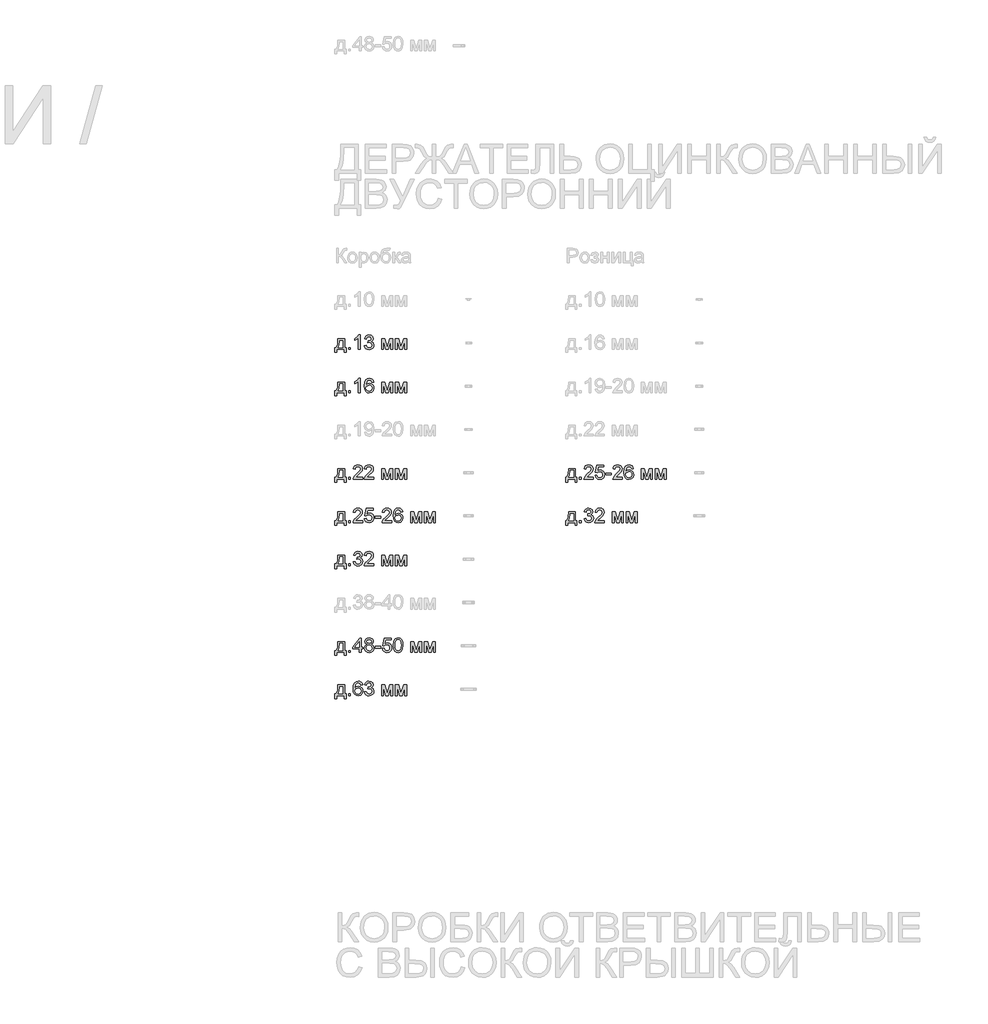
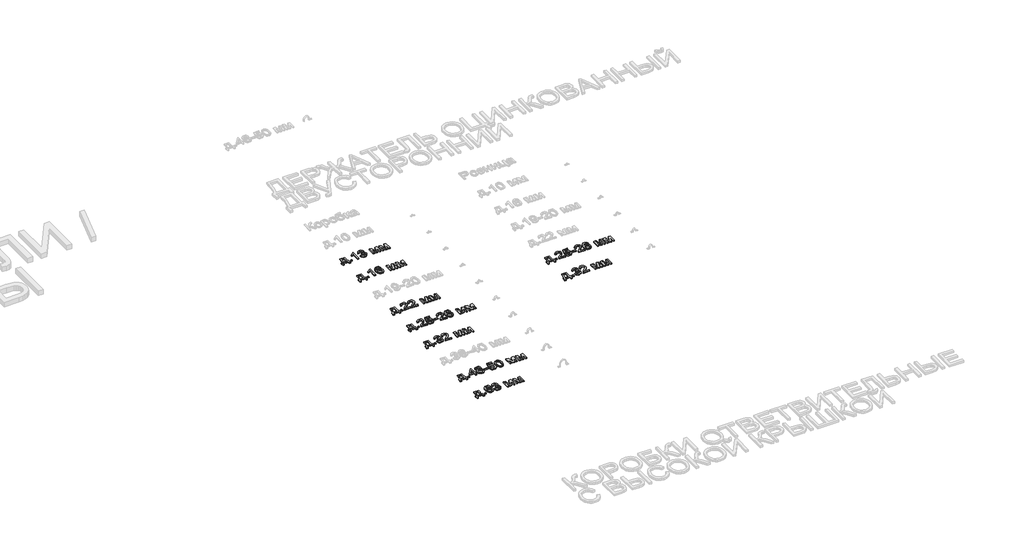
# One storey, part 33 of 98: 9 proxies.
"""IFC4 building model written with IfcOpenShell, lengths in millimetres."""

from ifc_helpers import new_model, si_unit, origin, origin_with_axes, place, context, project, spatial, polyline, outline, extrude, element, save

model = new_model("IFC4")

# Units and contexts
model_context = context("Model", 3, world=origin())
ifc_project = project(units=[si_unit("LENGTHUNIT", "METRE", prefix="MILLI")], contexts=[model_context])

# Site, building, storey
site = spatial("IfcSite", under=ifc_project)
building = spatial("IfcBuilding", under=site)
storey = spatial("IfcBuildingStorey", under=building, Name="Этаж 01", Elevation=0.0)

# Proxies
placement = place(None, origin())
element("IfcBuildingElementProxy", 1, Name="100", ObjectType="100", at=placement, inside=storey, context=model_context, shape_type="SweptSolid", body=[
    extrude(outline(polyline([(-26.9858135, -37256.3894484), (20.1030819, -37256.3894484), (20.1030819, -37317.6050124), (29.520861, -37317.6050124), (29.520861, -37350.5672392), (16.9638222, -37350.5672392), (16.9638222, -37330.1620512), (-34.8339627, -37330.1620512), (-34.8339627, -37350.5672392), (-47.3910015, -37350.5672392), (-47.3910015, -37317.6050124), (-39.5428522, -37317.6050124), (-29.8430303, -37293.6558945), (-26.9858135, -37256.3894484)]), holes=[polyline([(-15.9984045, -37268.9464872), (-18.9414605, -37297.5554437), (-25.4161836, -37317.6050124), (7.5460431, -37317.6050124), (7.5460431, -37268.9464872), (-15.9984045, -37268.9464872)])]), origin_with_axes(), (0.0, 0.0, 1.0), 10.0),
    extrude(outline(polyline([(46.7867893, -37330.1620512), (46.7867893, -37317.6050124), (59.3438281, -37317.6050124), (59.3438281, -37330.1620512), (46.7867893, -37330.1620512)])), origin_with_axes(), (0.0, 0.0, 1.0), 10.0),
    extrude(outline(polyline([(126.8379114, -37330.1620512), (114.2808727, -37330.1620512), (114.2808727, -37251.8767626), (102.3860215, -37260.3503112), (89.1667951, -37266.6901443), (89.1667951, -37254.8198186), (107.5731576, -37243.0721202), (118.7445076, -37229.705741), (126.8379114, -37229.705741), (126.8379114, -37330.1620512)])), origin_with_axes(), (0.0, 0.0, 1.0), 10.0),
    extrude(outline(polyline([(156.6608785, -37303.4783438), (169.2179173, -37301.9087139), (176.1463615, -37315.1279403), (189.1080705, -37319.1746422), (197.7165092, -37317.782822), (204.3629106, -37313.6073614), (210.0282933, -37299.8240493), (204.4119615, -37286.8378149), (190.1381401, -37281.6997297), (181.3334977, -37283.0731558), (182.7314492, -37270.516117), (184.7425375, -37270.6632698), (198.9918334, -37267.0580263), (203.7375112, -37262.4840268), (205.3194038, -37255.9725155), (200.7331415, -37246.1500662), (188.9118668, -37242.2627798), (176.9434392, -37246.1868544), (170.7875471, -37257.9590783), (158.2305084, -37256.3894484), (161.9277224, -37245.1138653), (168.5066788, -37236.6954989), (177.5075249, -37231.4531805), (188.4704084, -37229.705741), (203.6148838, -37233.151569), (214.2098853, -37242.5693481), (217.8764425, -37255.2367515), (214.3938263, -37266.8127716), (204.0931304, -37275.1269047), (217.7783407, -37283.7108179), (222.5853321, -37300.0447785), (220.1818364, -37312.2829862), (212.9713493, -37322.5101057), (202.0881736, -37329.4262872), (188.6666121, -37331.731681), (176.5265063, -37329.7635123), (166.6427433, -37323.8590063), (159.7694814, -37314.8275033), (156.6608785, -37303.4783438)])), origin_with_axes(), (0.0, 0.0, 1.0), 10.0),
    extrude(outline(polyline([(275.9527468, -37256.3894484), (297.5596827, -37256.3894484), (314.2124743, -37315.4467714), (332.1651157, -37256.3894484), (352.8646093, -37256.3894484), (352.8646093, -37330.1620512), (340.3075705, -37330.1620512), (340.3075705, -37270.7613717), (322.2568273, -37330.1620512), (305.7757139, -37330.1620512), (288.5097856, -37267.9164176), (288.5097856, -37330.1620512), (275.9527468, -37330.1620512), (275.9527468, -37256.3894484)])), origin_with_axes(), (0.0, 0.0, 1.0), 10.0),
    extrude(outline(polyline([(371.7001674, -37256.3894484), (393.3071033, -37256.3894484), (409.9598949, -37315.4467714), (427.9125363, -37256.3894484), (448.6120299, -37256.3894484), (448.6120299, -37330.1620512), (436.0549911, -37330.1620512), (436.0549911, -37270.7613717), (418.0042479, -37330.1620512), (401.5231345, -37330.1620512), (384.2572062, -37267.9164176), (384.2572062, -37330.1620512), (371.7001674, -37330.1620512), (371.7001674, -37256.3894484)])), origin_with_axes(), (0.0, 0.0, 1.0), 10.0),
])
element("IfcBuildingElementProxy", 2, Name="100", ObjectType="100", at=placement, inside=storey, context=model_context, shape_type="SweptSolid", body=[
    extrude(outline(polyline([(-26.9858135, -37556.3894484), (20.1030819, -37556.3894484), (20.1030819, -37617.6050124), (29.520861, -37617.6050124), (29.520861, -37650.5672392), (16.9638222, -37650.5672392), (16.9638222, -37630.1620512), (-34.8339627, -37630.1620512), (-34.8339627, -37650.5672392), (-47.3910015, -37650.5672392), (-47.3910015, -37617.6050124), (-39.5428522, -37617.6050124), (-29.8430303, -37593.6558945), (-26.9858135, -37556.3894484)]), holes=[polyline([(-15.9984045, -37568.9464872), (-18.9414605, -37597.5554437), (-25.4161836, -37617.6050124), (7.5460431, -37617.6050124), (7.5460431, -37568.9464872), (-15.9984045, -37568.9464872)])]), origin_with_axes(), (0.0, 0.0, 1.0), 10.0),
    extrude(outline(polyline([(46.7867893, -37630.1620512), (46.7867893, -37617.6050124), (59.3438281, -37617.6050124), (59.3438281, -37630.1620512), (46.7867893, -37630.1620512)])), origin_with_axes(), (0.0, 0.0, 1.0), 10.0),
    extrude(outline(polyline([(126.8379114, -37630.1620512), (114.2808727, -37630.1620512), (114.2808727, -37551.8767626), (102.3860215, -37560.3503112), (89.1667951, -37566.6901443), (89.1667951, -37554.8198186), (107.5731576, -37543.0721202), (118.7445076, -37529.705741), (126.8379114, -37529.705741), (126.8379114, -37630.1620512)])), origin_with_axes(), (0.0, 0.0, 1.0), 10.0),
    extrude(outline(polyline([(221.0157022, -37556.3894484), (208.4586634, -37557.9590783), (203.700723, -37547.4867041), (191.1191587, -37542.2627798), (179.7883933, -37545.3039376), (171.2167428, -37556.7205422), (167.6482874, -37579.1000302), (178.7215355, -37569.0813772), (192.4435339, -37565.8072275), (204.0440795, -37568.0451763), (213.7806896, -37574.7590227), (220.3841715, -37585.016799), (222.5853321, -37597.8865375), (218.4405282, -37615.2137794), (207.0361864, -37627.4765126), (190.5795985, -37631.731681), (176.3333682, -37628.9112524), (164.9872743, -37620.4499665), (157.5652551, -37605.5139575), (155.0912487, -37583.2693595), (157.8381009, -37558.2595152), (166.0786576, -37541.1591338), (177.3297153, -37532.5690892), (191.9039737, -37529.705741), (202.9220394, -37531.477706), (211.7450759, -37536.7936008), (217.9254935, -37545.2364926), (221.0157022, -37556.3894484)]), holes=[polyline([(167.6482874, -37597.6903337), (170.5545552, -37608.5673781), (178.2800771, -37616.4645782), (189.5985798, -37619.1746422), (197.8851218, -37617.7705593), (204.3996988, -37613.5583105), (208.6211447, -37606.9364345), (210.0282933, -37598.3034704), (208.6395388, -37590.0169284), (204.4732752, -37583.6985552), (197.8483336, -37579.6978385), (189.083545, -37578.3642663), (173.8900186, -37583.6985552), (169.2087202, -37589.8636443), (167.6482874, -37597.6903337)])]), origin_with_axes(), (0.0, 0.0, 1.0), 10.0),
    extrude(outline(polyline([(275.9527468, -37556.3894484), (297.5596827, -37556.3894484), (314.2124743, -37615.4467714), (332.1651157, -37556.3894484), (352.8646093, -37556.3894484), (352.8646093, -37630.1620512), (340.3075705, -37630.1620512), (340.3075705, -37570.7613717), (322.2568273, -37630.1620512), (305.7757139, -37630.1620512), (288.5097856, -37567.9164176), (288.5097856, -37630.1620512), (275.9527468, -37630.1620512), (275.9527468, -37556.3894484)])), origin_with_axes(), (0.0, 0.0, 1.0), 10.0),
    extrude(outline(polyline([(371.7001674, -37556.3894484), (393.3071033, -37556.3894484), (409.9598949, -37615.4467714), (427.9125363, -37556.3894484), (448.6120299, -37556.3894484), (448.6120299, -37630.1620512), (436.0549911, -37630.1620512), (436.0549911, -37570.7613717), (418.0042479, -37630.1620512), (401.5231345, -37630.1620512), (384.2572062, -37567.9164176), (384.2572062, -37630.1620512), (371.7001674, -37630.1620512), (371.7001674, -37556.3894484)])), origin_with_axes(), (0.0, 0.0, 1.0), 10.0),
])
element("IfcBuildingElementProxy", 3, Name="100", ObjectType="100", at=placement, inside=storey, context=model_context, shape_type="SweptSolid", body=[
    extrude(outline(polyline([(-26.9858135, -38156.3894484), (20.1030819, -38156.3894484), (20.1030819, -38217.6050124), (29.520861, -38217.6050124), (29.520861, -38250.5672392), (16.9638222, -38250.5672392), (16.9638222, -38230.1620512), (-34.8339627, -38230.1620512), (-34.8339627, -38250.5672392), (-47.3910015, -38250.5672392), (-47.3910015, -38217.6050124), (-39.5428522, -38217.6050124), (-29.8430303, -38193.6558945), (-26.9858135, -38156.3894484)]), holes=[polyline([(-15.9984045, -38168.9464872), (-18.9414605, -38197.5554437), (-25.4161836, -38217.6050124), (7.5460431, -38217.6050124), (7.5460431, -38168.9464872), (-15.9984045, -38168.9464872)])]), origin_with_axes(), (0.0, 0.0, 1.0), 10.0),
    extrude(outline(polyline([(46.7867893, -38230.1620512), (46.7867893, -38217.6050124), (59.3438281, -38217.6050124), (59.3438281, -38230.1620512), (46.7867893, -38230.1620512)])), origin_with_axes(), (0.0, 0.0, 1.0), 10.0),
    extrude(outline(polyline([(144.1038398, -38217.6050124), (144.1038398, -38230.1620512), (78.1793862, -38230.1620512), (79.5282869, -38221.5045616), (87.1557069, -38208.1749706), (102.8765308, -38193.6191063), (124.5570431, -38172.6988835), (129.9771711, -38158.474113), (124.8636114, -38146.9594066), (111.509495, -38142.2627798), (97.5912928, -38146.849042), (92.3060548, -38159.5287081), (79.7490161, -38157.9590783), (82.7932396, -38145.812841), (89.3752616, -38136.9407536), (99.1517256, -38131.5144942), (111.7792751, -38129.705741), (124.4987951, -38131.7168293), (134.256865, -38137.750094), (140.4648737, -38146.7632029), (142.5342099, -38157.7138236), (140.3023925, -38169.6209375), (132.8834389, -38181.9327216), (114.8940093, -38199.1373362), (100.4485097, -38211.2161284), (94.7831269, -38217.6050124), (144.1038398, -38217.6050124)])), origin_with_axes(), (0.0, 0.0, 1.0), 10.0),
    extrude(outline(polyline([(221.0157022, -38217.6050124), (221.0157022, -38230.1620512), (155.0912487, -38230.1620512), (156.4401493, -38221.5045616), (164.0675694, -38208.1749706), (179.7883933, -38193.6191063), (201.4689055, -38172.6988835), (206.8890336, -38158.474113), (201.7754739, -38146.9594066), (188.4213574, -38142.2627798), (174.5031553, -38146.849042), (169.2179173, -38159.5287081), (156.6608785, -38157.9590783), (159.705102, -38145.812841), (166.2871241, -38136.9407536), (176.0635881, -38131.5144942), (188.6911376, -38129.705741), (201.4106576, -38131.7168293), (211.1687275, -38137.750094), (217.3767361, -38146.7632029), (219.4460724, -38157.7138236), (217.2142549, -38169.6209375), (209.7953014, -38181.9327216), (191.8058718, -38199.1373362), (177.3603721, -38211.2161284), (171.6949894, -38217.6050124), (221.0157022, -38217.6050124)])), origin_with_axes(), (0.0, 0.0, 1.0), 10.0),
    extrude(outline(polyline([(275.9527468, -38156.3894484), (297.5596827, -38156.3894484), (314.2124743, -38215.4467714), (332.1651157, -38156.3894484), (352.8646093, -38156.3894484), (352.8646093, -38230.1620512), (340.3075705, -38230.1620512), (340.3075705, -38170.7613717), (322.2568273, -38230.1620512), (305.7757139, -38230.1620512), (288.5097856, -38167.9164176), (288.5097856, -38230.1620512), (275.9527468, -38230.1620512), (275.9527468, -38156.3894484)])), origin_with_axes(), (0.0, 0.0, 1.0), 10.0),
    extrude(outline(polyline([(371.7001674, -38156.3894484), (393.3071033, -38156.3894484), (409.9598949, -38215.4467714), (427.9125363, -38156.3894484), (448.6120299, -38156.3894484), (448.6120299, -38230.1620512), (436.0549911, -38230.1620512), (436.0549911, -38170.7613717), (418.0042479, -38230.1620512), (401.5231345, -38230.1620512), (384.2572062, -38167.9164176), (384.2572062, -38230.1620512), (371.7001674, -38230.1620512), (371.7001674, -38156.3894484)])), origin_with_axes(), (0.0, 0.0, 1.0), 10.0),
])
element("IfcBuildingElementProxy", 4, Name="100", ObjectType="100", at=placement, inside=storey, context=model_context, shape_type="SweptSolid", body=[
    extrude(outline(polyline([(-26.9858135, -38456.3894484), (20.1030819, -38456.3894484), (20.1030819, -38517.6050124), (29.520861, -38517.6050124), (29.520861, -38550.5672392), (16.9638222, -38550.5672392), (16.9638222, -38530.1620512), (-34.8339627, -38530.1620512), (-34.8339627, -38550.5672392), (-47.3910015, -38550.5672392), (-47.3910015, -38517.6050124), (-39.5428522, -38517.6050124), (-29.8430303, -38493.6558945), (-26.9858135, -38456.3894484)]), holes=[polyline([(-15.9984045, -38468.9464872), (-18.9414605, -38497.5554437), (-25.4161836, -38517.6050124), (7.5460431, -38517.6050124), (7.5460431, -38468.9464872), (-15.9984045, -38468.9464872)])]), origin_with_axes(), (0.0, 0.0, 1.0), 10.0),
    extrude(outline(polyline([(46.7867893, -38530.1620512), (46.7867893, -38517.6050124), (59.3438281, -38517.6050124), (59.3438281, -38530.1620512), (46.7867893, -38530.1620512)])), origin_with_axes(), (0.0, 0.0, 1.0), 10.0),
    extrude(outline(polyline([(144.1038398, -38517.6050124), (144.1038398, -38530.1620512), (78.1793862, -38530.1620512), (79.5282869, -38521.5045616), (87.1557069, -38508.1749706), (102.8765308, -38493.6191063), (124.5570431, -38472.6988835), (129.9771711, -38458.474113), (124.8636114, -38446.9594066), (111.509495, -38442.2627798), (97.5912928, -38446.849042), (92.3060548, -38459.5287081), (79.7490161, -38457.9590783), (82.7932396, -38445.812841), (89.3752616, -38436.9407536), (99.1517256, -38431.5144942), (111.7792751, -38429.705741), (124.4987951, -38431.7168293), (134.256865, -38437.750094), (140.4648737, -38446.7632029), (142.5342099, -38457.7138236), (140.3023925, -38469.6209375), (132.8834389, -38481.9327216), (114.8940093, -38499.1373362), (100.4485097, -38511.2161284), (94.7831269, -38517.6050124), (144.1038398, -38517.6050124)])), origin_with_axes(), (0.0, 0.0, 1.0), 10.0),
    extrude(outline(polyline([(156.6608785, -38503.4783438), (169.2179173, -38501.9087139), (175.5454876, -38514.8458974), (188.6666121, -38519.1746422), (197.6674583, -38517.6693918), (204.4119615, -38513.1536403), (208.6242103, -38506.1485539), (210.0282933, -38497.1752989), (204.7675808, -38482.2638154), (198.1610333, -38478.1619312), (188.8628158, -38476.7946364), (177.8386187, -38478.9774029), (170.7875471, -38484.6427856), (158.2305084, -38483.0731558), (169.2179173, -38431.2753709), (217.8764425, -38431.2753709), (217.8764425, -38443.8324096), (179.3714604, -38443.8324096), (174.0003832, -38471.4971357), (182.9705725, -38466.0524821), (192.3699575, -38464.2375976), (204.1023275, -38466.4878092), (213.8420033, -38473.2384438), (220.3994999, -38483.5268769), (222.5853321, -38496.390484), (220.6171634, -38508.9475228), (214.7126574, -38519.689677), (203.4064174, -38528.72118), (188.6175612, -38531.731681), (176.2843173, -38529.7972349), (166.4588023, -38523.9938964), (159.7234961, -38514.9961159), (156.6608785, -38503.4783438)])), origin_with_axes(), (0.0, 0.0, 1.0), 10.0),
    extrude(outline(polyline([(230.4334813, -38500.3390841), (230.4334813, -38487.7820453), (269.6742274, -38487.7820453), (269.6742274, -38500.3390841), (230.4334813, -38500.3390841)])), origin_with_axes(), (0.0, 0.0, 1.0), 10.0),
    extrude(outline(polyline([(345.0164601, -38517.6050124), (345.0164601, -38530.1620512), (279.0920065, -38530.1620512), (280.4409072, -38521.5045616), (288.0683272, -38508.1749706), (303.7891511, -38493.6191063), (325.4696634, -38472.6988835), (330.8897914, -38458.474113), (325.7762317, -38446.9594066), (312.4221153, -38442.2627798), (298.5039131, -38446.849042), (293.2186751, -38459.5287081), (280.6616364, -38457.9590783), (283.7058599, -38445.812841), (290.2878819, -38436.9407536), (300.0643459, -38431.5144942), (312.6918954, -38429.705741), (325.4114154, -38431.7168293), (335.1694853, -38437.750094), (341.377494, -38446.7632029), (343.4468302, -38457.7138236), (341.2150128, -38469.6209375), (333.7960592, -38481.9327216), (315.8066296, -38499.1373362), (301.36113, -38511.2161284), (295.6957472, -38517.6050124), (345.0164601, -38517.6050124)])), origin_with_axes(), (0.0, 0.0, 1.0), 10.0),
    extrude(outline(polyline([(421.9283225, -38456.3894484), (409.3712837, -38457.9590783), (404.6133433, -38447.4867041), (392.031779, -38442.2627798), (380.7010136, -38445.3039376), (372.1293631, -38456.7205422), (368.5609077, -38479.1000302), (379.6341558, -38469.0813772), (393.3561542, -38465.8072275), (404.9566998, -38468.0451763), (414.6933099, -38474.7590227), (421.2967918, -38485.016799), (423.4979524, -38497.8865375), (419.3531485, -38515.2137794), (407.9488067, -38527.4765126), (391.4922188, -38531.731681), (377.2459885, -38528.9112524), (365.8998946, -38520.4499665), (358.4778754, -38505.5139575), (356.003869, -38483.2693595), (358.7507212, -38458.2595152), (366.9912779, -38441.1591338), (378.2423356, -38432.5690892), (392.816594, -38429.705741), (403.8346597, -38431.477706), (412.6576962, -38436.7936008), (418.8381138, -38445.2364926), (421.9283225, -38456.3894484)]), holes=[polyline([(368.5609077, -38497.6903337), (371.4671755, -38508.5673781), (379.1926974, -38516.4645782), (390.5112001, -38519.1746422), (398.7977421, -38517.7705593), (405.3123191, -38513.5583105), (409.533765, -38506.9364345), (410.9409136, -38498.3034704), (409.5521591, -38490.0169284), (405.3858955, -38483.6985552), (398.7609539, -38479.6978385), (389.9961653, -38478.3642663), (374.8026389, -38483.6985552), (370.1213405, -38489.8636443), (368.5609077, -38497.6903337)])]), origin_with_axes(), (0.0, 0.0, 1.0), 10.0),
    extrude(outline(polyline([(476.8653671, -38456.3894484), (498.472303, -38456.3894484), (515.1250946, -38515.4467714), (533.077736, -38456.3894484), (553.7772296, -38456.3894484), (553.7772296, -38530.1620512), (541.2201908, -38530.1620512), (541.2201908, -38470.7613717), (523.1694476, -38530.1620512), (506.6883342, -38530.1620512), (489.4224059, -38467.9164176), (489.4224059, -38530.1620512), (476.8653671, -38530.1620512), (476.8653671, -38456.3894484)])), origin_with_axes(), (0.0, 0.0, 1.0), 10.0),
    extrude(outline(polyline([(572.6127877, -38456.3894484), (594.2197236, -38456.3894484), (610.8725152, -38515.4467714), (628.8251566, -38456.3894484), (649.5246502, -38456.3894484), (649.5246502, -38530.1620512), (636.9676114, -38530.1620512), (636.9676114, -38470.7613717), (618.9168682, -38530.1620512), (602.4357548, -38530.1620512), (585.1698265, -38467.9164176), (585.1698265, -38530.1620512), (572.6127877, -38530.1620512), (572.6127877, -38456.3894484)])), origin_with_axes(), (0.0, 0.0, 1.0), 10.0),
])
element("IfcBuildingElementProxy", 5, Name="100", ObjectType="100", at=placement, inside=storey, context=model_context, shape_type="SweptSolid", body=[
    extrude(outline(polyline([(-26.9858135, -38756.3894484), (20.1030819, -38756.3894484), (20.1030819, -38817.6050124), (29.520861, -38817.6050124), (29.520861, -38850.5672392), (16.9638222, -38850.5672392), (16.9638222, -38830.1620512), (-34.8339627, -38830.1620512), (-34.8339627, -38850.5672392), (-47.3910015, -38850.5672392), (-47.3910015, -38817.6050124), (-39.5428522, -38817.6050124), (-29.8430303, -38793.6558945), (-26.9858135, -38756.3894484)]), holes=[polyline([(-15.9984045, -38768.9464872), (-18.9414605, -38797.5554437), (-25.4161836, -38817.6050124), (7.5460431, -38817.6050124), (7.5460431, -38768.9464872), (-15.9984045, -38768.9464872)])]), origin_with_axes(), (0.0, 0.0, 1.0), 10.0),
    extrude(outline(polyline([(46.7867893, -38830.1620512), (46.7867893, -38817.6050124), (59.3438281, -38817.6050124), (59.3438281, -38830.1620512), (46.7867893, -38830.1620512)])), origin_with_axes(), (0.0, 0.0, 1.0), 10.0),
    extrude(outline(polyline([(79.7490161, -38803.4783438), (92.3060548, -38801.9087139), (99.2344991, -38815.1279403), (112.196208, -38819.1746422), (120.8046467, -38817.782822), (127.4510481, -38813.6073614), (133.1164308, -38799.8240493), (127.500099, -38786.8378149), (113.2262776, -38781.6997297), (104.4216352, -38783.0731558), (105.8195868, -38770.516117), (107.830675, -38770.6632698), (122.079971, -38767.0580263), (126.8256487, -38762.4840268), (128.4075413, -38755.9725155), (123.8212791, -38746.1500662), (112.0000043, -38742.2627798), (100.0315767, -38746.1868544), (93.8756847, -38757.9590783), (81.3186459, -38756.3894484), (85.01586, -38745.1138653), (91.5948163, -38736.6954989), (100.5956625, -38731.4531805), (111.5585459, -38729.705741), (126.7030214, -38733.151569), (137.2980228, -38742.5693481), (140.9645801, -38755.2367515), (137.4819638, -38766.8127716), (127.181268, -38775.1269047), (140.8664782, -38783.7108179), (145.6734696, -38800.0447785), (143.2699739, -38812.2829862), (136.0594868, -38822.5101057), (125.1763111, -38829.4262872), (111.7547496, -38831.731681), (99.6146438, -38829.7635123), (89.7308809, -38823.8590063), (82.8576189, -38814.8275033), (79.7490161, -38803.4783438)])), origin_with_axes(), (0.0, 0.0, 1.0), 10.0),
    extrude(outline(polyline([(221.0157022, -38817.6050124), (221.0157022, -38830.1620512), (155.0912487, -38830.1620512), (156.4401493, -38821.5045616), (164.0675694, -38808.1749706), (179.7883933, -38793.6191063), (201.4689055, -38772.6988835), (206.8890336, -38758.474113), (201.7754739, -38746.9594066), (188.4213574, -38742.2627798), (174.5031553, -38746.849042), (169.2179173, -38759.5287081), (156.6608785, -38757.9590783), (159.705102, -38745.812841), (166.2871241, -38736.9407536), (176.0635881, -38731.5144942), (188.6911376, -38729.705741), (201.4106576, -38731.7168293), (211.1687275, -38737.750094), (217.3767361, -38746.7632029), (219.4460724, -38757.7138236), (217.2142549, -38769.6209375), (209.7953014, -38781.9327216), (191.8058718, -38799.1373362), (177.3603721, -38811.2161284), (171.6949894, -38817.6050124), (221.0157022, -38817.6050124)])), origin_with_axes(), (0.0, 0.0, 1.0), 10.0),
    extrude(outline(polyline([(275.9527468, -38756.3894484), (297.5596827, -38756.3894484), (314.2124743, -38815.4467714), (332.1651157, -38756.3894484), (352.8646093, -38756.3894484), (352.8646093, -38830.1620512), (340.3075705, -38830.1620512), (340.3075705, -38770.7613717), (322.2568273, -38830.1620512), (305.7757139, -38830.1620512), (288.5097856, -38767.9164176), (288.5097856, -38830.1620512), (275.9527468, -38830.1620512), (275.9527468, -38756.3894484)])), origin_with_axes(), (0.0, 0.0, 1.0), 10.0),
    extrude(outline(polyline([(371.7001674, -38756.3894484), (393.3071033, -38756.3894484), (409.9598949, -38815.4467714), (427.9125363, -38756.3894484), (448.6120299, -38756.3894484), (448.6120299, -38830.1620512), (436.0549911, -38830.1620512), (436.0549911, -38770.7613717), (418.0042479, -38830.1620512), (401.5231345, -38830.1620512), (384.2572062, -38767.9164176), (384.2572062, -38830.1620512), (371.7001674, -38830.1620512), (371.7001674, -38756.3894484)])), origin_with_axes(), (0.0, 0.0, 1.0), 10.0),
])
element("IfcBuildingElementProxy", 6, Name="100", ObjectType="100", at=placement, inside=storey, context=model_context, shape_type="SweptSolid", body=[
    extrude(outline(polyline([(-26.9858135, -39356.3894484), (20.1030819, -39356.3894484), (20.1030819, -39417.6050124), (29.520861, -39417.6050124), (29.520861, -39450.5672392), (16.9638222, -39450.5672392), (16.9638222, -39430.1620512), (-34.8339627, -39430.1620512), (-34.8339627, -39450.5672392), (-47.3910015, -39450.5672392), (-47.3910015, -39417.6050124), (-39.5428522, -39417.6050124), (-29.8430303, -39393.6558945), (-26.9858135, -39356.3894484)]), holes=[polyline([(-15.9984045, -39368.9464872), (-18.9414605, -39397.5554437), (-25.4161836, -39417.6050124), (7.5460431, -39417.6050124), (7.5460431, -39368.9464872), (-15.9984045, -39368.9464872)])]), origin_with_axes(), (0.0, 0.0, 1.0), 10.0),
    extrude(outline(polyline([(46.7867893, -39430.1620512), (46.7867893, -39417.6050124), (59.3438281, -39417.6050124), (59.3438281, -39430.1620512), (46.7867893, -39430.1620512)])), origin_with_axes(), (0.0, 0.0, 1.0), 10.0),
    extrude(outline(polyline([(120.5593921, -39430.1620512), (120.5593921, -39406.6176035), (75.0401265, -39406.6176035), (75.0401265, -39394.0605647), (123.6986518, -39331.2753709), (133.1164308, -39331.2753709), (133.1164308, -39394.0605647), (145.6734696, -39394.0605647), (145.6734696, -39406.6176035), (133.1164308, -39406.6176035), (133.1164308, -39430.1620512), (120.5593921, -39430.1620512)]), holes=[polyline([(120.5593921, -39394.0605647), (120.5593921, -39355.261277), (90.4911703, -39394.0605647), (120.5593921, -39394.0605647)])]), origin_with_axes(), (0.0, 0.0, 1.0), 10.0),
    extrude(outline(polyline([(174.9568764, -39374.8325991), (163.5157464, -39367.0335008), (159.8001382, -39354.893395), (161.8234892, -39345.0770771), (167.8935421, -39336.9652791), (177.3297153, -39331.5206255), (189.451427, -39329.705741), (201.6467152, -39331.5635451), (211.2055157, -39337.1369573), (217.3859332, -39345.377514), (219.4460724, -39355.2367515), (215.7795151, -39367.070289), (204.6572162, -39374.8325991), (218.0113326, -39384.6795738), (222.5853321, -39400.9276953), (220.3167264, -39412.9329111), (213.5109095, -39422.8534622), (203.0017472, -39429.5121263), (189.6231053, -39431.731681), (176.2444634, -39429.5029293), (165.7353011, -39422.816674), (158.9294842, -39412.8010867), (156.6608785, -39400.5843388), (161.418819, -39383.9560726), (174.9568764, -39374.8325991)]), holes=[polyline([(169.2179173, -39400.1428804), (171.3148447, -39409.5974476), (178.7337982, -39416.6730447), (189.7212072, -39419.1746422), (198.2683322, -39417.8594641), (204.6817416, -39413.9139297), (210.0282933, -39400.5352878), (204.5100634, -39386.8991285), (197.9495011, -39382.8524266), (189.3042742, -39381.5035259), (180.8767109, -39382.8340325), (174.5276808, -39386.8255521), (169.2179173, -39400.1428804)]), polyline([(172.357177, -39355.261277), (176.8085491, -39365.1205144), (189.7702581, -39368.9464872), (202.4744497, -39365.1450399), (206.8890336, -39355.8253627), (202.3272969, -39346.1745917), (189.6231053, -39342.2627798), (176.8821255, -39346.0887525), (172.357177, -39355.261277)])]), origin_with_axes(), (0.0, 0.0, 1.0), 10.0),
    extrude(outline(polyline([(230.4334813, -39400.3390841), (230.4334813, -39387.7820453), (269.6742274, -39387.7820453), (269.6742274, -39400.3390841), (230.4334813, -39400.3390841)])), origin_with_axes(), (0.0, 0.0, 1.0), 10.0),
    extrude(outline(polyline([(280.6616364, -39403.4783438), (293.2186751, -39401.9087139), (299.5462454, -39414.8458974), (312.6673699, -39419.1746422), (321.6682161, -39417.6693918), (328.4127193, -39413.1536403), (332.6249682, -39406.1485539), (334.0290511, -39397.1752989), (328.7683386, -39382.2638154), (322.1617911, -39378.1619312), (312.8635737, -39376.7946364), (301.8393766, -39378.9774029), (294.788305, -39384.6427856), (282.2312662, -39383.0731558), (293.2186751, -39331.2753709), (341.8772004, -39331.2753709), (341.8772004, -39343.8324096), (303.3722182, -39343.8324096), (298.0011411, -39371.4971357), (306.9713304, -39366.0524821), (316.3707154, -39364.2375976), (328.1030853, -39366.4878092), (337.8427611, -39373.2384438), (344.4002577, -39383.5268769), (346.5860899, -39396.390484), (344.6179212, -39408.9475228), (338.7134152, -39419.689677), (327.4071752, -39428.72118), (312.618319, -39431.731681), (300.2850751, -39429.7972349), (290.4595602, -39423.9938964), (283.724254, -39414.9961159), (280.6616364, -39403.4783438)])), origin_with_axes(), (0.0, 0.0, 1.0), 10.0),
    extrude(outline(polyline([(357.5734988, -39380.7432365), (361.2645815, -39351.8399744), (372.227465, -39335.17492), (390.5357256, -39329.705741), (405.2019545, -39332.9431026), (415.3309721, -39342.2750425), (421.217084, -39357.1374751), (423.4979524, -39380.7432365), (419.8436579, -39409.5238712), (408.9175626, -39426.2257138), (400.686203, -39430.3551892), (390.5357256, -39431.731681), (377.4881775, -39429.340448), (367.5798891, -39422.1667491), (360.0750964, -39405.1767323), (357.5734988, -39380.7432365)]), holes=[polyline([(370.1305376, -39380.718711), (371.6020656, -39400.4709085), (376.0166495, -39411.9028415), (382.5894745, -39417.3566921), (390.5357256, -39419.1746422), (398.4819767, -39417.3505607), (405.0548017, -39411.878316), (409.4693856, -39400.4402516), (410.9409136, -39380.718711), (409.5184365, -39361.4110376), (405.2510054, -39349.8901998), (398.6904431, -39344.1696348), (390.3885728, -39342.2627798), (382.5281608, -39343.9427742), (376.2128532, -39348.9827576), (371.6511165, -39361.2209653), (370.1305376, -39380.718711)])]), origin_with_axes(), (0.0, 0.0, 1.0), 10.0),
    extrude(outline(polyline([(476.8653671, -39356.3894484), (498.472303, -39356.3894484), (515.1250946, -39415.4467714), (533.077736, -39356.3894484), (553.7772296, -39356.3894484), (553.7772296, -39430.1620512), (541.2201908, -39430.1620512), (541.2201908, -39370.7613717), (523.1694476, -39430.1620512), (506.6883342, -39430.1620512), (489.4224059, -39367.9164176), (489.4224059, -39430.1620512), (476.8653671, -39430.1620512), (476.8653671, -39356.3894484)])), origin_with_axes(), (0.0, 0.0, 1.0), 10.0),
    extrude(outline(polyline([(572.6127877, -39356.3894484), (594.2197236, -39356.3894484), (610.8725152, -39415.4467714), (628.8251566, -39356.3894484), (649.5246502, -39356.3894484), (649.5246502, -39430.1620512), (636.9676114, -39430.1620512), (636.9676114, -39370.7613717), (618.9168682, -39430.1620512), (602.4357548, -39430.1620512), (585.1698265, -39367.9164176), (585.1698265, -39430.1620512), (572.6127877, -39430.1620512), (572.6127877, -39356.3894484)])), origin_with_axes(), (0.0, 0.0, 1.0), 10.0),
])
element("IfcBuildingElementProxy", 7, Name="100", ObjectType="100", at=placement, inside=storey, context=model_context, shape_type="SweptSolid", body=[
    extrude(outline(polyline([(1573.0141865, -38156.3894484), (1620.1030819, -38156.3894484), (1620.1030819, -38217.6050124), (1629.520861, -38217.6050124), (1629.520861, -38250.5672392), (1616.9638222, -38250.5672392), (1616.9638222, -38230.1620512), (1565.1660373, -38230.1620512), (1565.1660373, -38250.5672392), (1552.6089985, -38250.5672392), (1552.6089985, -38217.6050124), (1560.4571478, -38217.6050124), (1570.1569697, -38193.6558945), (1573.0141865, -38156.3894484)]), holes=[polyline([(1584.0015955, -38168.9464872), (1581.0585395, -38197.5554437), (1574.5838164, -38217.6050124), (1607.5460431, -38217.6050124), (1607.5460431, -38168.9464872), (1584.0015955, -38168.9464872)])]), origin_with_axes(), (0.0, 0.0, 1.0), 10.0),
    extrude(outline(polyline([(1646.7867893, -38230.1620512), (1646.7867893, -38217.6050124), (1659.3438281, -38217.6050124), (1659.3438281, -38230.1620512), (1646.7867893, -38230.1620512)])), origin_with_axes(), (0.0, 0.0, 1.0), 10.0),
    extrude(outline(polyline([(1744.1038398, -38217.6050124), (1744.1038398, -38230.1620512), (1678.1793862, -38230.1620512), (1679.5282869, -38221.5045616), (1687.1557069, -38208.1749706), (1702.8765308, -38193.6191063), (1724.5570431, -38172.6988835), (1729.9771711, -38158.474113), (1724.8636114, -38146.9594066), (1711.509495, -38142.2627798), (1697.5912928, -38146.849042), (1692.3060548, -38159.5287081), (1679.7490161, -38157.9590783), (1682.7932396, -38145.812841), (1689.3752616, -38136.9407536), (1699.1517256, -38131.5144942), (1711.7792751, -38129.705741), (1724.4987951, -38131.7168293), (1734.256865, -38137.750094), (1740.4648737, -38146.7632029), (1742.5342099, -38157.7138236), (1740.3023925, -38169.6209375), (1732.8834389, -38181.9327216), (1714.8940093, -38199.1373362), (1700.4485097, -38211.2161284), (1694.7831269, -38217.6050124), (1744.1038398, -38217.6050124)])), origin_with_axes(), (0.0, 0.0, 1.0), 10.0),
    extrude(outline(polyline([(1756.6608785, -38203.4783438), (1769.2179173, -38201.9087139), (1775.5454876, -38214.8458974), (1788.6666121, -38219.1746422), (1797.6674583, -38217.6693918), (1804.4119615, -38213.1536403), (1808.6242103, -38206.1485539), (1810.0282933, -38197.1752989), (1804.7675808, -38182.2638154), (1798.1610333, -38178.1619312), (1788.8628158, -38176.7946364), (1777.8386187, -38178.9774029), (1770.7875471, -38184.6427856), (1758.2305084, -38183.0731558), (1769.2179173, -38131.2753709), (1817.8764425, -38131.2753709), (1817.8764425, -38143.8324096), (1779.3714604, -38143.8324096), (1774.0003832, -38171.4971357), (1782.9705725, -38166.0524821), (1792.3699575, -38164.2375976), (1804.1023275, -38166.4878092), (1813.8420033, -38173.2384438), (1820.3994999, -38183.5268769), (1822.5853321, -38196.390484), (1820.6171634, -38208.9475228), (1814.7126574, -38219.689677), (1803.4064174, -38228.72118), (1788.6175612, -38231.731681), (1776.2843173, -38229.7972349), (1766.4588023, -38223.9938964), (1759.7234961, -38214.9961159), (1756.6608785, -38203.4783438)])), origin_with_axes(), (0.0, 0.0, 1.0), 10.0),
    extrude(outline(polyline([(1830.4334813, -38200.3390841), (1830.4334813, -38187.7820453), (1869.6742274, -38187.7820453), (1869.6742274, -38200.3390841), (1830.4334813, -38200.3390841)])), origin_with_axes(), (0.0, 0.0, 1.0), 10.0),
    extrude(outline(polyline([(1945.0164601, -38217.6050124), (1945.0164601, -38230.1620512), (1879.0920065, -38230.1620512), (1880.4409072, -38221.5045616), (1888.0683272, -38208.1749706), (1903.7891511, -38193.6191063), (1925.4696634, -38172.6988835), (1930.8897914, -38158.474113), (1925.7762317, -38146.9594066), (1912.4221153, -38142.2627798), (1898.5039131, -38146.849042), (1893.2186751, -38159.5287081), (1880.6616364, -38157.9590783), (1883.7058599, -38145.812841), (1890.2878819, -38136.9407536), (1900.0643459, -38131.5144942), (1912.6918954, -38129.705741), (1925.4114154, -38131.7168293), (1935.1694853, -38137.750094), (1941.377494, -38146.7632029), (1943.4468302, -38157.7138236), (1941.2150128, -38169.6209375), (1933.7960592, -38181.9327216), (1915.8066296, -38199.1373362), (1901.36113, -38211.2161284), (1895.6957472, -38217.6050124), (1945.0164601, -38217.6050124)])), origin_with_axes(), (0.0, 0.0, 1.0), 10.0),
    extrude(outline(polyline([(2021.9283225, -38156.3894484), (2009.3712837, -38157.9590783), (2004.6133433, -38147.4867041), (1992.031779, -38142.2627798), (1980.7010136, -38145.3039376), (1972.1293631, -38156.7205422), (1968.5609077, -38179.1000302), (1979.6341558, -38169.0813772), (1993.3561542, -38165.8072275), (2004.9566998, -38168.0451763), (2014.6933099, -38174.7590227), (2021.2967918, -38185.016799), (2023.4979524, -38197.8865375), (2019.3531485, -38215.2137794), (2007.9488067, -38227.4765126), (1991.4922188, -38231.731681), (1977.2459885, -38228.9112524), (1965.8998946, -38220.4499665), (1958.4778754, -38205.5139575), (1956.003869, -38183.2693595), (1958.7507212, -38158.2595152), (1966.9912779, -38141.1591338), (1978.2423356, -38132.5690892), (1992.816594, -38129.705741), (2003.8346597, -38131.477706), (2012.6576962, -38136.7936008), (2018.8381138, -38145.2364926), (2021.9283225, -38156.3894484)]), holes=[polyline([(1968.5609077, -38197.6903337), (1971.4671755, -38208.5673781), (1979.1926974, -38216.4645782), (1990.5112001, -38219.1746422), (1998.7977421, -38217.7705593), (2005.3123191, -38213.5583105), (2009.533765, -38206.9364345), (2010.9409136, -38198.3034704), (2009.5521591, -38190.0169284), (2005.3858955, -38183.6985552), (1998.7609539, -38179.6978385), (1989.9961653, -38178.3642663), (1974.8026389, -38183.6985552), (1970.1213405, -38189.8636443), (1968.5609077, -38197.6903337)])]), origin_with_axes(), (0.0, 0.0, 1.0), 10.0),
    extrude(outline(polyline([(2076.8653671, -38156.3894484), (2098.472303, -38156.3894484), (2115.1250946, -38215.4467714), (2133.077736, -38156.3894484), (2153.7772296, -38156.3894484), (2153.7772296, -38230.1620512), (2141.2201908, -38230.1620512), (2141.2201908, -38170.7613717), (2123.1694476, -38230.1620512), (2106.6883342, -38230.1620512), (2089.4224059, -38167.9164176), (2089.4224059, -38230.1620512), (2076.8653671, -38230.1620512), (2076.8653671, -38156.3894484)])), origin_with_axes(), (0.0, 0.0, 1.0), 10.0),
    extrude(outline(polyline([(2172.6127877, -38156.3894484), (2194.2197236, -38156.3894484), (2210.8725152, -38215.4467714), (2228.8251566, -38156.3894484), (2249.5246502, -38156.3894484), (2249.5246502, -38230.1620512), (2236.9676114, -38230.1620512), (2236.9676114, -38170.7613717), (2218.9168682, -38230.1620512), (2202.4357548, -38230.1620512), (2185.1698265, -38167.9164176), (2185.1698265, -38230.1620512), (2172.6127877, -38230.1620512), (2172.6127877, -38156.3894484)])), origin_with_axes(), (0.0, 0.0, 1.0), 10.0),
])
element("IfcBuildingElementProxy", 8, Name="100", ObjectType="100", at=placement, inside=storey, context=model_context, shape_type="SweptSolid", body=[
    extrude(outline(polyline([(1573.0141865, -38456.3894484), (1620.1030819, -38456.3894484), (1620.1030819, -38517.6050124), (1629.520861, -38517.6050124), (1629.520861, -38550.5672392), (1616.9638222, -38550.5672392), (1616.9638222, -38530.1620512), (1565.1660373, -38530.1620512), (1565.1660373, -38550.5672392), (1552.6089985, -38550.5672392), (1552.6089985, -38517.6050124), (1560.4571478, -38517.6050124), (1570.1569697, -38493.6558945), (1573.0141865, -38456.3894484)]), holes=[polyline([(1584.0015955, -38468.9464872), (1581.0585395, -38497.5554437), (1574.5838164, -38517.6050124), (1607.5460431, -38517.6050124), (1607.5460431, -38468.9464872), (1584.0015955, -38468.9464872)])]), origin_with_axes(), (0.0, 0.0, 1.0), 10.0),
    extrude(outline(polyline([(1646.7867893, -38530.1620512), (1646.7867893, -38517.6050124), (1659.3438281, -38517.6050124), (1659.3438281, -38530.1620512), (1646.7867893, -38530.1620512)])), origin_with_axes(), (0.0, 0.0, 1.0), 10.0),
    extrude(outline(polyline([(1679.7490161, -38503.4783438), (1692.3060548, -38501.9087139), (1699.2344991, -38515.1279403), (1712.196208, -38519.1746422), (1720.8046467, -38517.782822), (1727.4510481, -38513.6073614), (1733.1164308, -38499.8240493), (1727.500099, -38486.8378149), (1713.2262776, -38481.6997297), (1704.4216352, -38483.0731558), (1705.8195868, -38470.516117), (1707.830675, -38470.6632698), (1722.079971, -38467.0580263), (1726.8256487, -38462.4840268), (1728.4075413, -38455.9725155), (1723.8212791, -38446.1500662), (1712.0000043, -38442.2627798), (1700.0315767, -38446.1868544), (1693.8756847, -38457.9590783), (1681.3186459, -38456.3894484), (1685.01586, -38445.1138653), (1691.5948163, -38436.6954989), (1700.5956625, -38431.4531805), (1711.5585459, -38429.705741), (1726.7030214, -38433.151569), (1737.2980228, -38442.5693481), (1740.9645801, -38455.2367515), (1737.4819638, -38466.8127716), (1727.181268, -38475.1269047), (1740.8664782, -38483.7108179), (1745.6734696, -38500.0447785), (1743.2699739, -38512.2829862), (1736.0594868, -38522.5101057), (1725.1763111, -38529.4262872), (1711.7547496, -38531.731681), (1699.6146438, -38529.7635123), (1689.7308809, -38523.8590063), (1682.8576189, -38514.8275033), (1679.7490161, -38503.4783438)])), origin_with_axes(), (0.0, 0.0, 1.0), 10.0),
    extrude(outline(polyline([(1821.0157022, -38517.6050124), (1821.0157022, -38530.1620512), (1755.0912487, -38530.1620512), (1756.4401493, -38521.5045616), (1764.0675694, -38508.1749706), (1779.7883933, -38493.6191063), (1801.4689055, -38472.6988835), (1806.8890336, -38458.474113), (1801.7754739, -38446.9594066), (1788.4213574, -38442.2627798), (1774.5031553, -38446.849042), (1769.2179173, -38459.5287081), (1756.6608785, -38457.9590783), (1759.705102, -38445.812841), (1766.2871241, -38436.9407536), (1776.0635881, -38431.5144942), (1788.6911376, -38429.705741), (1801.4106576, -38431.7168293), (1811.1687275, -38437.750094), (1817.3767361, -38446.7632029), (1819.4460724, -38457.7138236), (1817.2142549, -38469.6209375), (1809.7953014, -38481.9327216), (1791.8058718, -38499.1373362), (1777.3603721, -38511.2161284), (1771.6949894, -38517.6050124), (1821.0157022, -38517.6050124)])), origin_with_axes(), (0.0, 0.0, 1.0), 10.0),
    extrude(outline(polyline([(1875.9527468, -38456.3894484), (1897.5596827, -38456.3894484), (1914.2124743, -38515.4467714), (1932.1651157, -38456.3894484), (1952.8646093, -38456.3894484), (1952.8646093, -38530.1620512), (1940.3075705, -38530.1620512), (1940.3075705, -38470.7613717), (1922.2568273, -38530.1620512), (1905.7757139, -38530.1620512), (1888.5097856, -38467.9164176), (1888.5097856, -38530.1620512), (1875.9527468, -38530.1620512), (1875.9527468, -38456.3894484)])), origin_with_axes(), (0.0, 0.0, 1.0), 10.0),
    extrude(outline(polyline([(1971.7001674, -38456.3894484), (1993.3071033, -38456.3894484), (2009.9598949, -38515.4467714), (2027.9125363, -38456.3894484), (2048.6120299, -38456.3894484), (2048.6120299, -38530.1620512), (2036.0549911, -38530.1620512), (2036.0549911, -38470.7613717), (2018.0042479, -38530.1620512), (2001.5231345, -38530.1620512), (1984.2572062, -38467.9164176), (1984.2572062, -38530.1620512), (1971.7001674, -38530.1620512), (1971.7001674, -38456.3894484)])), origin_with_axes(), (0.0, 0.0, 1.0), 10.0),
])
element("IfcBuildingElementProxy", 9, Name="100", ObjectType="100", at=placement, inside=storey, context=model_context, shape_type="SweptSolid", body=[
    extrude(outline(polyline([(-26.9858135, -39656.3894484), (20.1030819, -39656.3894484), (20.1030819, -39717.6050124), (29.520861, -39717.6050124), (29.520861, -39750.5672392), (16.9638222, -39750.5672392), (16.9638222, -39730.1620512), (-34.8339627, -39730.1620512), (-34.8339627, -39750.5672392), (-47.3910015, -39750.5672392), (-47.3910015, -39717.6050124), (-39.5428522, -39717.6050124), (-29.8430303, -39693.6558945), (-26.9858135, -39656.3894484)]), holes=[polyline([(-15.9984045, -39668.9464872), (-18.9414605, -39697.5554437), (-25.4161836, -39717.6050124), (7.5460431, -39717.6050124), (7.5460431, -39668.9464872), (-15.9984045, -39668.9464872)])]), origin_with_axes(), (0.0, 0.0, 1.0), 10.0),
    extrude(outline(polyline([(46.7867893, -39730.1620512), (46.7867893, -39717.6050124), (59.3438281, -39717.6050124), (59.3438281, -39730.1620512), (46.7867893, -39730.1620512)])), origin_with_axes(), (0.0, 0.0, 1.0), 10.0),
    extrude(outline(polyline([(144.1038398, -39656.3894484), (131.546801, -39657.9590783), (126.7888605, -39647.4867041), (114.2072963, -39642.2627798), (102.8765308, -39645.3039376), (94.3048803, -39656.7205422), (90.736425, -39679.1000302), (101.809673, -39669.0813772), (115.5316715, -39665.8072275), (127.132217, -39668.0451763), (136.8688272, -39674.7590227), (143.472309, -39685.016799), (145.6734696, -39697.8865375), (141.5286658, -39715.2137794), (130.1243239, -39727.4765126), (113.667736, -39731.731681), (99.4215058, -39728.9112524), (88.0754119, -39720.4499665), (80.6533926, -39705.5139575), (78.1793862, -39683.2693595), (80.9262384, -39658.2595152), (89.1667951, -39641.1591338), (100.4178528, -39632.5690892), (114.9921112, -39629.705741), (126.010177, -39631.477706), (134.8332135, -39636.7936008), (141.013631, -39645.2364926), (144.1038398, -39656.3894484)]), holes=[polyline([(90.736425, -39697.6903337), (93.6426927, -39708.5673781), (101.3682146, -39716.4645782), (112.6867174, -39719.1746422), (120.9732593, -39717.7705593), (127.4878363, -39713.5583105), (131.7092822, -39706.9364345), (133.1164308, -39698.3034704), (131.7276763, -39690.0169284), (127.5614127, -39683.6985552), (120.9364711, -39679.6978385), (112.1716826, -39678.3642663), (96.9781562, -39683.6985552), (92.2968578, -39689.8636443), (90.736425, -39697.6903337)])]), origin_with_axes(), (0.0, 0.0, 1.0), 10.0),
    extrude(outline(polyline([(156.6608785, -39703.4783438), (169.2179173, -39701.9087139), (176.1463615, -39715.1279403), (189.1080705, -39719.1746422), (197.7165092, -39717.782822), (204.3629106, -39713.6073614), (210.0282933, -39699.8240493), (204.4119615, -39686.8378149), (190.1381401, -39681.6997297), (181.3334977, -39683.0731558), (182.7314492, -39670.516117), (184.7425375, -39670.6632698), (198.9918334, -39667.0580263), (203.7375112, -39662.4840268), (205.3194038, -39655.9725155), (200.7331415, -39646.1500662), (188.9118668, -39642.2627798), (176.9434392, -39646.1868544), (170.7875471, -39657.9590783), (158.2305084, -39656.3894484), (161.9277224, -39645.1138653), (168.5066788, -39636.6954989), (177.5075249, -39631.4531805), (188.4704084, -39629.705741), (203.6148838, -39633.151569), (214.2098853, -39642.5693481), (217.8764425, -39655.2367515), (214.3938263, -39666.8127716), (204.0931304, -39675.1269047), (217.7783407, -39683.7108179), (222.5853321, -39700.0447785), (220.1818364, -39712.2829862), (212.9713493, -39722.5101057), (202.0881736, -39729.4262872), (188.6666121, -39731.731681), (176.5265063, -39729.7635123), (166.6427433, -39723.8590063), (159.7694814, -39714.8275033), (156.6608785, -39703.4783438)])), origin_with_axes(), (0.0, 0.0, 1.0), 10.0),
    extrude(outline(polyline([(275.9527468, -39656.3894484), (297.5596827, -39656.3894484), (314.2124743, -39715.4467714), (332.1651157, -39656.3894484), (352.8646093, -39656.3894484), (352.8646093, -39730.1620512), (340.3075705, -39730.1620512), (340.3075705, -39670.7613717), (322.2568273, -39730.1620512), (305.7757139, -39730.1620512), (288.5097856, -39667.9164176), (288.5097856, -39730.1620512), (275.9527468, -39730.1620512), (275.9527468, -39656.3894484)])), origin_with_axes(), (0.0, 0.0, 1.0), 10.0),
    extrude(outline(polyline([(371.7001674, -39656.3894484), (393.3071033, -39656.3894484), (409.9598949, -39715.4467714), (427.9125363, -39656.3894484), (448.6120299, -39656.3894484), (448.6120299, -39730.1620512), (436.0549911, -39730.1620512), (436.0549911, -39670.7613717), (418.0042479, -39730.1620512), (401.5231345, -39730.1620512), (384.2572062, -39667.9164176), (384.2572062, -39730.1620512), (371.7001674, -39730.1620512), (371.7001674, -39656.3894484)])), origin_with_axes(), (0.0, 0.0, 1.0), 10.0),
])

save(model, "model.ifc")
